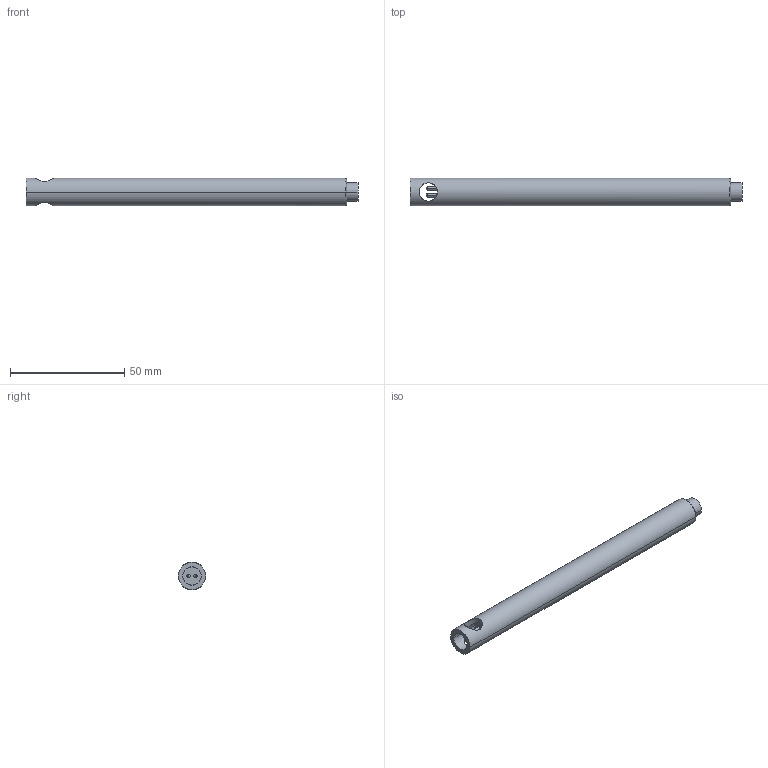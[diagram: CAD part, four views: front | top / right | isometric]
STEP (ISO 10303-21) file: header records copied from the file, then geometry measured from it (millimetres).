
FILE_DESCRIPTION (( 'STEP AP203' ), '1' );
FILE_NAME ('F4.4.step', '2023-09-06T12:19:28', ( '' ), ( '' ), 'SwSTEP 2.0', 'SolidWorks 2022', '' );
FILE_SCHEMA (( 'CONFIG_CONTROL_DESIGN' ));
Length unit declared in the file: millimetre
Products named in the file (1): F4.4
Bounding box: 145 x 12 x 12 mm (x, y, z)
Volume: 15223.7 mm3; surface area: 5902.5 mm2
Topology: 1 solids, 1 shells, 26 faces, 64 edges, 38 vertices
Faces by surface type: cylinder 16, sphere 4, plane 4, torus 2
Entity records: 929 total; most frequent: CARTESIAN_POINT 285, DIRECTION 126, ORIENTED_EDGE 112, EDGE_CURVE 56, AXIS2_PLACEMENT_3D 55, VERTEX_POINT 34, EDGE_LOOP 32, CIRCLE 28
